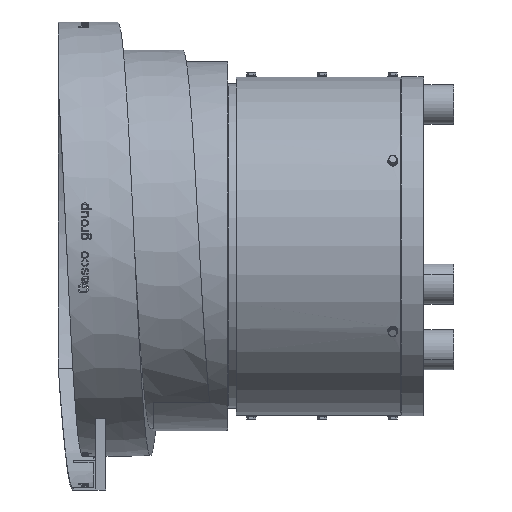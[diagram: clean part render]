
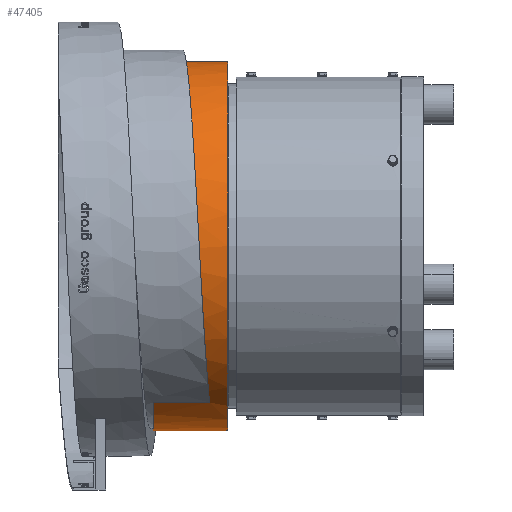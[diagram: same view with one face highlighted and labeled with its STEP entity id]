
A CAD part, left-side view. The second image highlights one B-rep face of the part: STEP entity #47405.
In plain terms, the highlighted cylindrical face has radius 185 mm (diameter 370 mm), a partial arc.
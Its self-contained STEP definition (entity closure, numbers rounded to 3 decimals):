
#7462=DIRECTION('',(0.,1.,0.));
#7463=VECTOR('',#7462,56.73);
#7464=CARTESIAN_POINT('',(-98.204,8.27,
-156.783));
#7465=LINE('',#7464,#7463);
#7466=CARTESIAN_POINT('',(-98.204,65.,-156.783));
#21407=DIRECTION('',(0.,-1.,0.));
#21408=VECTOR('',#21407,44.981);
#21409=CARTESIAN_POINT('',(0.,34.981,185.));
#21410=LINE('',#21409,#21408);
#21411=DIRECTION('',(0.,-1.,0.));
#21412=VECTOR('',#21411,75.);
#21413=CARTESIAN_POINT('',(0.,65.,-185.));
#21414=LINE('',#21413,#21412);
#21415=CARTESIAN_POINT('',(0.,65.,0.));
#21416=DIRECTION('',(0.,-1.,0.));
#21417=DIRECTION('',(-0.531,0.,-0.847));
#21418=AXIS2_PLACEMENT_3D('',#21415,#21416,#21417);
#21447=CARTESIAN_POINT('',(0.,34.981,185.));
#21449=CARTESIAN_POINT('',(0.,34.981,185.));
#21450=CARTESIAN_POINT('',(-8.342,34.515,185.));
#21451=CARTESIAN_POINT('',(-25.101,33.578,
183.873));
#21452=CARTESIAN_POINT('',(-50.101,32.154,
178.698));
#21453=CARTESIAN_POINT('',(-74.159,30.729,
170.121));
#21454=CARTESIAN_POINT('',(-96.578,29.319,
158.448));
#21455=CARTESIAN_POINT('',(-116.942,27.928,
144.081));
#21456=CARTESIAN_POINT('',(-135.539,26.511,
126.772));
#21457=CARTESIAN_POINT('',(-151.673,25.085,
106.952));
#21458=CARTESIAN_POINT('',(-164.906,23.66,
85.113));
#21459=CARTESIAN_POINT('',(-174.865,22.261,
62.092));
#21460=CARTESIAN_POINT('',(-181.643,20.862,
37.954));
#21461=CARTESIAN_POINT('',(-185.101,19.462,
13.103));
#21462=CARTESIAN_POINT('',(-185.179,18.064,
-11.959));
#21463=CARTESIAN_POINT('',(-181.871,16.664,
-36.845));
#21464=CARTESIAN_POINT('',(-175.248,15.266,
-61.007));
#21465=CARTESIAN_POINT('',(-165.43,13.867,
-84.069));
#21466=CARTESIAN_POINT('',(-152.558,12.466,
-105.641));
#21467=CARTESIAN_POINT('',(-136.956,11.07,
-125.21));
#21468=CARTESIAN_POINT('',(-118.774,9.667,
-142.575));
#21469=CARTESIAN_POINT('',(-105.256,8.736,
-152.366));
#21470=CARTESIAN_POINT('',(-98.204,8.27,
-156.783));
#22015=CARTESIAN_POINT('',(0.,-10.,0.));
#22016=DIRECTION('',(0.,-1.,0.));
#22017=DIRECTION('',(0.,0.,1.));
#22018=AXIS2_PLACEMENT_3D('',#22015,#22016,#22017);
#26120=CARTESIAN_POINT('',(0.,65.,-185.));
#26121=CARTESIAN_POINT('',(0.,-10.,-185.));
#26122=VERTEX_POINT('',#26120);
#26123=VERTEX_POINT('',#26121);
#26124=CARTESIAN_POINT('',(0.,-10.,185.));
#26125=VERTEX_POINT('',#26124);
#26151=VERTEX_POINT('',#21447);
#26154=VERTEX_POINT('',#21470);
#26165=VERTEX_POINT('',#7466);
#47387=CARTESIAN_POINT('',(0.,-13.75,0.));
#47388=DIRECTION('',(0.,1.,0.));
#47389=DIRECTION('',(0.,0.,-1.));
#47390=AXIS2_PLACEMENT_3D('',#47387,#47388,#47389);
#47391=CYLINDRICAL_SURFACE('',#47390,185.);
#47393=ORIENTED_EDGE('',*,*,#47392,.F.);
#47395=ORIENTED_EDGE('',*,*,#47394,.T.);
#47397=ORIENTED_EDGE('',*,*,#47396,.T.);
#47399=ORIENTED_EDGE('',*,*,#47398,.F.);
#47401=ORIENTED_EDGE('',*,*,#47400,.F.);
#47402=ORIENTED_EDGE('',*,*,#34244,.F.);
#47403=EDGE_LOOP('',(#47393,#47395,#47397,#47399,#47401,#47402));
#47404=FACE_OUTER_BOUND('',#47403,.F.);
#21419=CIRCLE('',#21418,185.);
#21471=B_SPLINE_CURVE_WITH_KNOTS('',3,(#21449,#21450,#21451,#21452,#21453,
#21454,#21455,#21456,#21457,#21458,#21459,#21460,#21461,#21462,#21463,#21464,
#21465,#21466,#21467,#21468,#21469,#21470),.UNSPECIFIED.,.F.,.F.,(4,1,1,1,1,1,1,
1,1,1,1,1,1,1,1,1,1,1,1,4),(0.,0.053,0.105,
0.158,0.211,0.263,0.316,
0.368,0.421,0.474,0.526,
0.579,0.632,0.684,0.737,
0.789,0.842,0.895,0.947,1.),
.UNSPECIFIED.);
#22019=CIRCLE('',#22018,185.);
#34244=EDGE_CURVE('',#26154,#26165,#7465,.T.);
#47392=EDGE_CURVE('',#26151,#26154,#21471,.T.);
#47394=EDGE_CURVE('',#26151,#26125,#21410,.T.);
#47396=EDGE_CURVE('',#26125,#26123,#22019,.T.);
#47398=EDGE_CURVE('',#26122,#26123,#21414,.T.);
#47400=EDGE_CURVE('',#26165,#26122,#21419,.T.);
#47405=ADVANCED_FACE('',(#47404),#47391,.T.);
